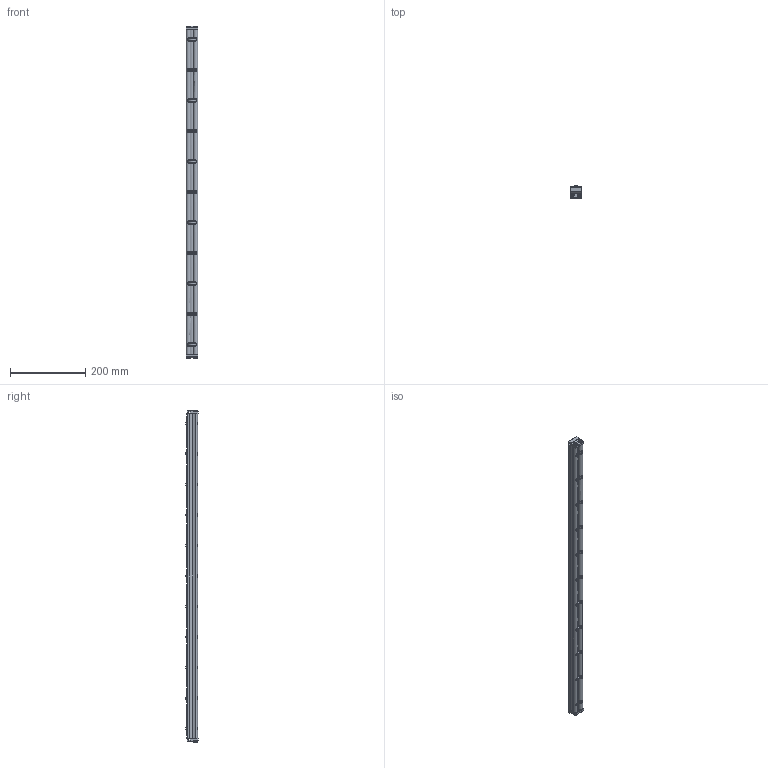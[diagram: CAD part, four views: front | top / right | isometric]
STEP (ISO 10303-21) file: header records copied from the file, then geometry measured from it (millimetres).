
FILE_DESCRIPTION((''),'2;1');
FILE_NAME('206523-34_ASM','2023-02-27T',('jenni.wallner'),(''),'PRO/ENGINEER BY PARAMETRIC TECHNOLOGY CORPORATION, 2012420','PRO/ENGINEER BY PARAMETRIC TECHNOLOGY CORPORATION, 2012420','');
FILE_SCHEMA(('CONFIG_CONTROL_DESIGN'));
Length unit declared in the file: inch
Products named in the file (7): 240826; 205977_205978_205979_205978; 9506XXM_950616M; 2410WW_241034; 2436WW_243634; ASM0001_ASM; 206523-34_ASM
Assembly tree (20 placements, depth 3):
  206523-34_ASM
    ASM0001_ASM
      240826  x11
      205977_205978_205979_205978  x2
      9506XXM_950616M  x4
      2410WW_241034
      2436WW_243634
Bounding box: 30.89 x 33.01 x 884.15 mm (x, y, z)
Volume: 422567.4 mm3; surface area: 252001.2 mm2
Topology: 19 solids, 19 shells, 709 faces, 2002 edges, 1317 vertices
Faces by surface type: cylinder 321, plane 236, cone 108, torus 44
Entity records: 16914 total; most frequent: CARTESIAN_POINT 4486, ORIENTED_EDGE 2746, DIRECTION 2516, EDGE_CURVE 1373, AXIS2_PLACEMENT_3D 937, VERTEX_POINT 915, VECTOR 642, LINE 642
